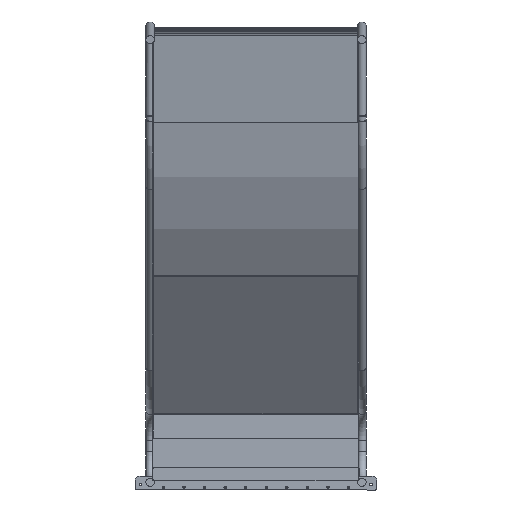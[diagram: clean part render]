
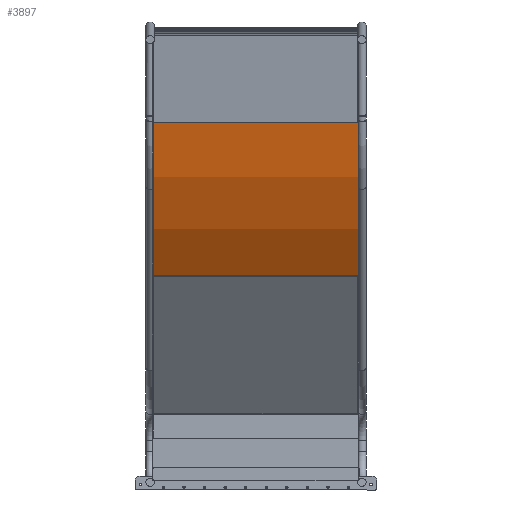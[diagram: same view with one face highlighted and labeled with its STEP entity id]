
A CAD part, left-side view. The second image highlights one B-rep face of the part: STEP entity #3897.
In plain terms, the highlighted cylindrical face has radius 1524.43 mm (diameter 3048.85 mm), a partial arc.
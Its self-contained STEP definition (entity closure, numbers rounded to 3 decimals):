
#211=CYLINDRICAL_SURFACE('',#4353,1524.427);
#332=FACE_OUTER_BOUND('',#567,.T.);
#567=EDGE_LOOP('',(#2804,#2805,#2806,#2807));
#810=CIRCLE('',#4351,1524.427);
#812=CIRCLE('',#4354,1524.427);
#1039=LINE('',#6371,#1395);
#1043=LINE('',#6384,#1399);
#1395=VECTOR('',#4942,10.);
#1399=VECTOR('',#4956,10.);
#1732=VERTEX_POINT('',#6367);
#1734=VERTEX_POINT('',#6370);
#1736=VERTEX_POINT('',#6376);
#1738=VERTEX_POINT('',#6382);
#2125=EDGE_CURVE('',#1734,#1732,#1039,.T.);
#2128=EDGE_CURVE('',#1734,#1736,#810,.T.);
#2131=EDGE_CURVE('',#1732,#1738,#812,.T.);
#2132=EDGE_CURVE('',#1738,#1736,#1043,.F.);
#2804=ORIENTED_EDGE('',*,*,#2125,.T.);
#2805=ORIENTED_EDGE('',*,*,#2131,.T.);
#2806=ORIENTED_EDGE('',*,*,#2132,.T.);
#2807=ORIENTED_EDGE('',*,*,#2128,.F.);
#3897=ADVANCED_FACE('',(#332),#211,.T.);
#4351=AXIS2_PLACEMENT_3D('',#6377,#4947,#4948);
#4353=AXIS2_PLACEMENT_3D('',#6381,#4952,#4953);
#4354=AXIS2_PLACEMENT_3D('',#6383,#4954,#4955);
#4942=DIRECTION('',(0.,-1.,0.));
#4947=DIRECTION('center_axis',(0.,1.,0.));
#4948=DIRECTION('ref_axis',(-1.,0.,0.));
#4952=DIRECTION('center_axis',(0.,1.,0.));
#4953=DIRECTION('ref_axis',(-1.,0.,0.));
#4954=DIRECTION('center_axis',(0.,1.,0.));
#4955=DIRECTION('ref_axis',(-1.,0.,0.));
#4956=DIRECTION('',(0.,-1.,0.));
#6367=CARTESIAN_POINT('',(39.711,0.,1523.909));
#6370=CARTESIAN_POINT('',(39.711,927.,1523.909));
#6371=CARTESIAN_POINT('',(39.711,-3.,1523.909));
#6376=CARTESIAN_POINT('',(761.029,927.,1320.875));
#6377=CARTESIAN_POINT('Origin',(0.,927.,0.));
#6381=CARTESIAN_POINT('Origin',(0.,-3.,0.));
#6382=CARTESIAN_POINT('',(761.029,0.,1320.875));
#6383=CARTESIAN_POINT('Origin',(0.,0.,0.));
#6384=CARTESIAN_POINT('',(761.029,-3.,1320.875));
